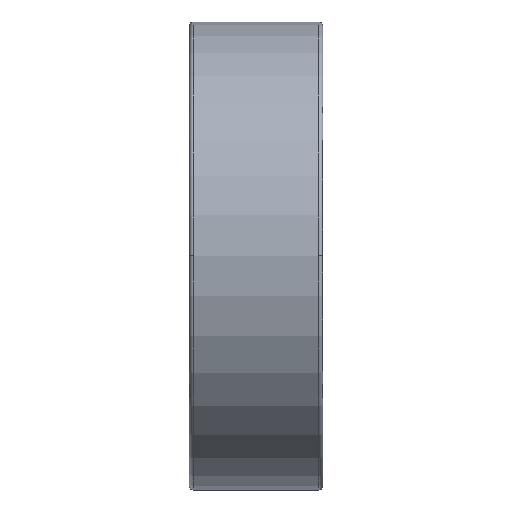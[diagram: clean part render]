
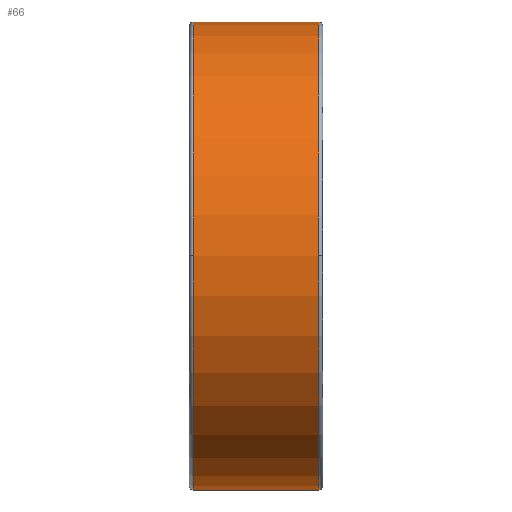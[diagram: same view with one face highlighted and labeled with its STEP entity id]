
A CAD part, top view. The second image highlights one B-rep face of the part: STEP entity #66.
In plain terms, the highlighted cylindrical face has radius 17.5 mm (diameter 35 mm), a partial arc.
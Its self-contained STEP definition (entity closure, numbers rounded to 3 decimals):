
#66=ADVANCED_FACE('',(#121),#122,.T.);
#121=FACE_OUTER_BOUND('',#227,.T.);
#122=CYLINDRICAL_SURFACE('',#228,17.5);
#227=EDGE_LOOP('',(#357,#358,#359,#360,#361,#362));
#228=AXIS2_PLACEMENT_3D('',#363,#364,#365);
#357=ORIENTED_EDGE('',*,*,#733,.F.);
#358=ORIENTED_EDGE('',*,*,#734,.T.);
#359=ORIENTED_EDGE('',*,*,#735,.T.);
#360=ORIENTED_EDGE('',*,*,#736,.F.);
#361=ORIENTED_EDGE('',*,*,#737,.F.);
#362=ORIENTED_EDGE('',*,*,#729,.F.);
#363=CARTESIAN_POINT('',(5.0,0.0,0.0));
#364=DIRECTION('',(1.0,0.0,0.0));
#365=DIRECTION('',(0.0,1.0,0.0));
#729=EDGE_CURVE('',#860,#862,#863,.T.);
#733=EDGE_CURVE('',#869,#860,#870,.T.);
#734=EDGE_CURVE('',#869,#871,#872,.T.);
#735=EDGE_CURVE('',#871,#873,#874,.T.);
#736=EDGE_CURVE('',#875,#873,#876,.T.);
#737=EDGE_CURVE('',#862,#875,#877,.T.);
#860=VERTEX_POINT('',#1058);
#862=VERTEX_POINT('',#1060);
#863=CIRCLE('',#1061,17.5);
#869=VERTEX_POINT('',#1067);
#870=LINE('',#1068,#1069);
#871=VERTEX_POINT('',#1070);
#872=CIRCLE('',#1071,17.5);
#873=VERTEX_POINT('',#1072);
#874=CIRCLE('',#1073,17.5);
#875=VERTEX_POINT('',#1074);
#876=LINE('',#1075,#1076);
#877=CIRCLE('',#1077,17.5);
#1058=CARTESIAN_POINT('',(9.7,17.5,0.0));
#1060=CARTESIAN_POINT('',(9.7,0.,17.5));
#1061=AXIS2_PLACEMENT_3D('',#1289,#1290,#1291);
#1067=CARTESIAN_POINT('',(0.3,17.5,0.0));
#1068=CARTESIAN_POINT('',(5.0,17.5,0.));
#1069=VECTOR('',#1301,1.0);
#1070=CARTESIAN_POINT('',(0.3,0.,17.5));
#1071=AXIS2_PLACEMENT_3D('',#1302,#1303,#1304);
#1072=CARTESIAN_POINT('',(0.3,-17.5,0.));
#1073=AXIS2_PLACEMENT_3D('',#1305,#1306,#1307);
#1074=CARTESIAN_POINT('',(9.7,-17.5,0.));
#1075=CARTESIAN_POINT('',(5.0,-17.5,0.));
#1076=VECTOR('',#1308,1.0);
#1077=AXIS2_PLACEMENT_3D('',#1309,#1310,#1311);
#1289=CARTESIAN_POINT('',(9.7,0.0,0.0));
#1290=DIRECTION('',(1.0,0.0,0.0));
#1291=DIRECTION('',(0.0,1.0,0.0));
#1301=DIRECTION('',(1.0,0.0,0.0));
#1302=CARTESIAN_POINT('',(0.3,0.0,0.0));
#1303=DIRECTION('',(1.0,0.0,0.0));
#1304=DIRECTION('',(0.0,1.0,0.0));
#1305=CARTESIAN_POINT('',(0.3,0.0,0.0));
#1306=DIRECTION('',(1.0,0.0,0.0));
#1307=DIRECTION('',(0.0,1.0,0.0));
#1308=DIRECTION('',(-1.0,-0.0,-0.0));
#1309=CARTESIAN_POINT('',(9.7,0.0,0.0));
#1310=DIRECTION('',(1.0,0.0,0.0));
#1311=DIRECTION('',(0.0,1.0,0.0));
